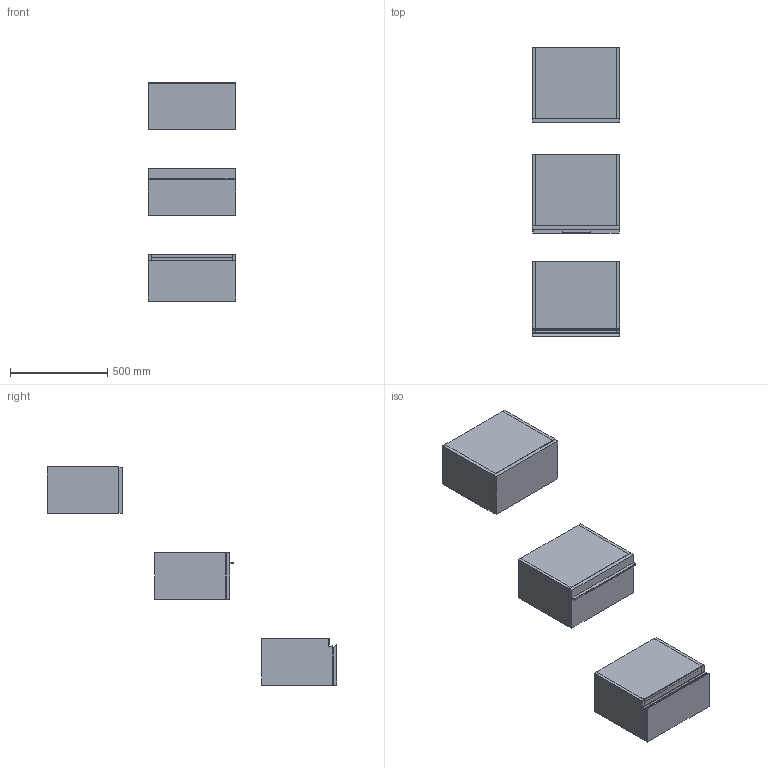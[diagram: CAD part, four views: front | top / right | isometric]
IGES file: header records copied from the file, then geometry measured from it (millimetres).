
Start section: Data from Parasolid IGES Translator 19.0.9, Copyright(c) 2006 Siemens PL M Software. All Rights Reserved.
Global section: file name: noorth-SI-H 24 D 38,8 W 45_8244.igs; native system: By Siemens PLM Incorporated; preprocessor: XPlus GENERIC/IGES 19.0.9; author: Noname; organization: Noname; date: 20200530.103920; units: metre
Bounding box: 450.02 x 1485.97 x 1120 mm (x, y, z)
Volume: 29532780.6 mm3; surface area: 4428255.1 mm2
Topology: 20 solids, 20 shells, 178 faces, 382 edges, 234 vertices
Faces by surface type: plane 134, extrusion 16, bspline 16, cylinder 12
